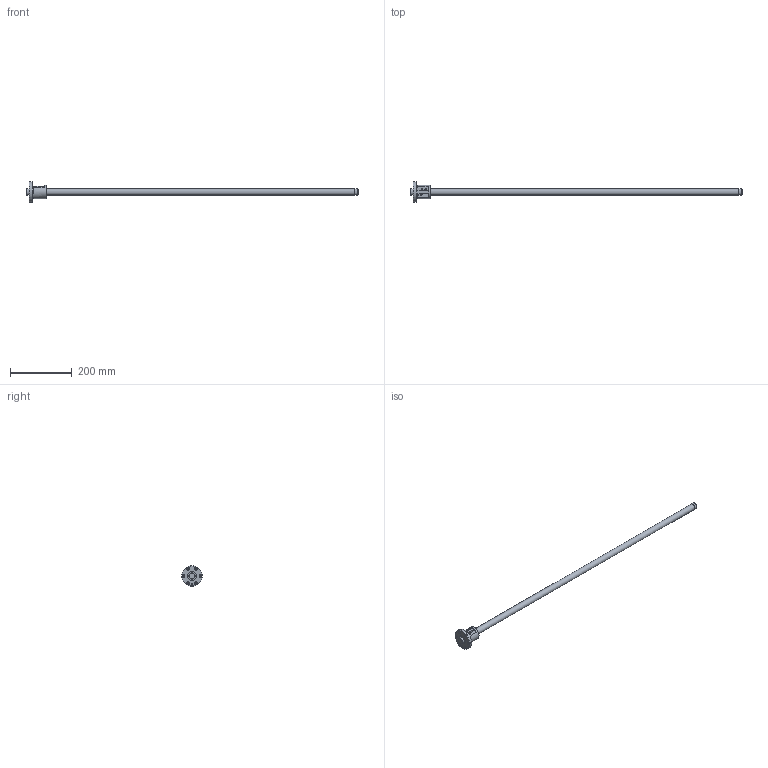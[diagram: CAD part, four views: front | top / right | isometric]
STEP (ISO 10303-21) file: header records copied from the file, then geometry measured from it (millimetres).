
FILE_DESCRIPTION( ( 'STEP AP203' ), ' ' );
FILE_NAME( 'p:/temp/worker_49/1856_1980/app_80_12018011811175571043196818fa3fd_000000_00_00_000000/format_0/BIF2005-5RRG0+1076LC2_10000.stp', '2018-01-18T10:17:56', ( '' ), ( '' ), ' ', 'PARTsolutions', ' ' );
FILE_SCHEMA( ( 'CONFIG_CONTROL_DESIGN' ) );
Length unit declared in the file: millimetre
Products named in the file (3): BIF2005-5RRG0+1076LC2_10000; _BIF 2005-5RR1000500 Shaft; _BIF 2005-5RR Nut
Assembly tree (2 placements, depth 2):
  BIF2005-5RRG0+1076LC2_10000
    _BIF 2005-5RR1000500 Shaft
    _BIF 2005-5RR Nut
Bounding box: 1076 x 67 x 67 mm (x, y, z)
Volume: 416864.2 mm3; surface area: 89215.1 mm2
Topology: 2 solids, 2 shells, 82 faces, 178 edges, 113 vertices
Faces by surface type: cylinder 39, plane 31, cone 8, torus 4
Full cylindrical faces by diameter (mm): 3.35 x2, 4 x4, 4.917 x1, 5.5 x6, 9.5 x6, 19.5 x2, 20 x4, 28.8 x2, 44 x1, 67 x1
Entity records: 2400 total; most frequent: CARTESIAN_POINT 609, DIRECTION 376, ORIENTED_EDGE 262, AXIS2_PLACEMENT_3D 172, EDGE_LOOP 156, EDGE_CURVE 131, FACE_OUTER_BOUND 111, VERTEX_POINT 103
